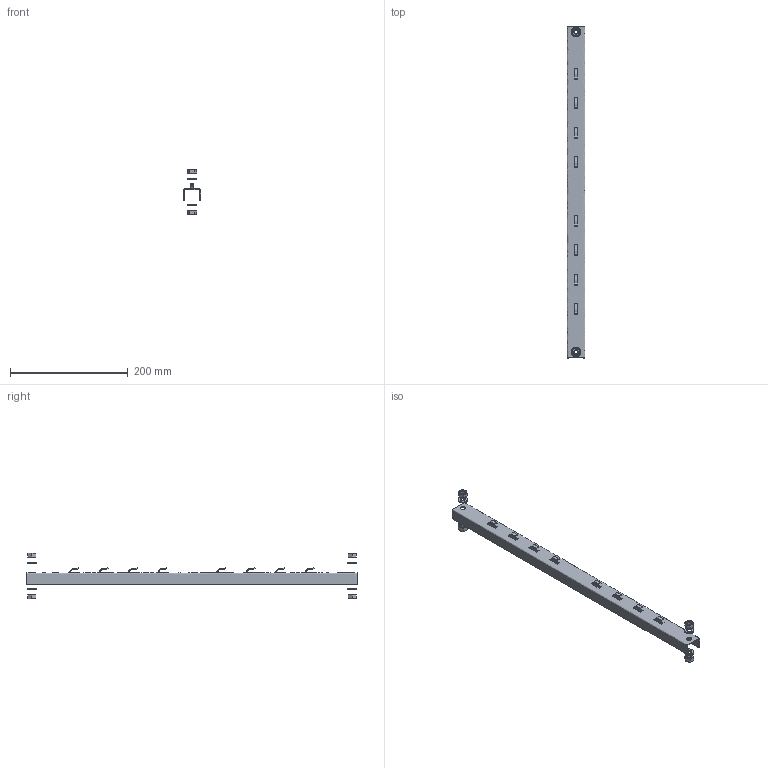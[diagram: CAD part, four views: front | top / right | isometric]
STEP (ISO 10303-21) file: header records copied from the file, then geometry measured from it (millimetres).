
FILE_DESCRIPTION(/* description */ (''),/* implementation_level */ '2;1');
FILE_NAME(/* name */ 'PZM500',/* time_stamp */ '2012-11-29T22:32:28+01:00',/* author */ (''),/* organization */ (''),/* preprocessor_version */ 'ST-DEVELOPER v10',/* originating_system */ '',/* authorisation */ '');
FILE_SCHEMA (('AUTOMOTIVE_DESIGN_CC2'));
Length unit declared in the file: millimetre
Products named in the file (1): 1
Bounding box: 30 x 564 x 76.97 mm (x, y, z)
Surface area: 82010.5 mm2 (no closed solid volume)
Topology: 0 solids, 205 shells, 235 faces, 1114 edges, 1058 vertices
Faces by surface type: bspline 179, plane 56
Entity records: 18087 total; most frequent: CARTESIAN_POINT 11288, ORIENTED_EDGE 1170, EDGE_CURVE 1110, VERTEX_POINT 1050, B_SPLINE_CURVE_WITH_KNOTS 389, EDGE_LOOP 271, ADVANCED_FACE 235, FACE_OUTER_BOUND 235
